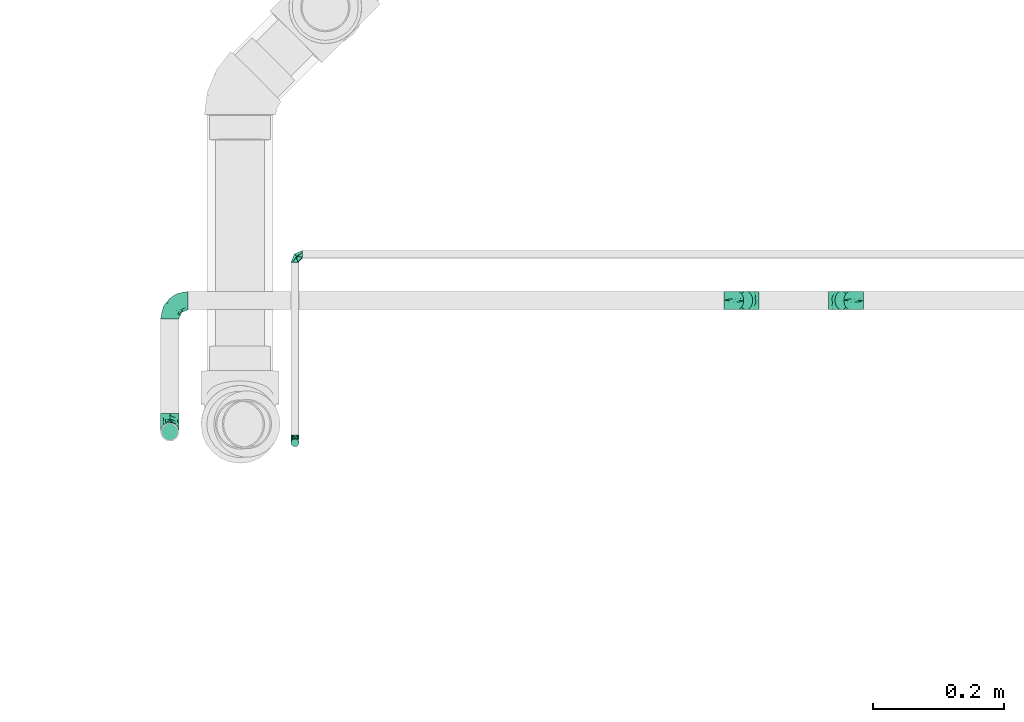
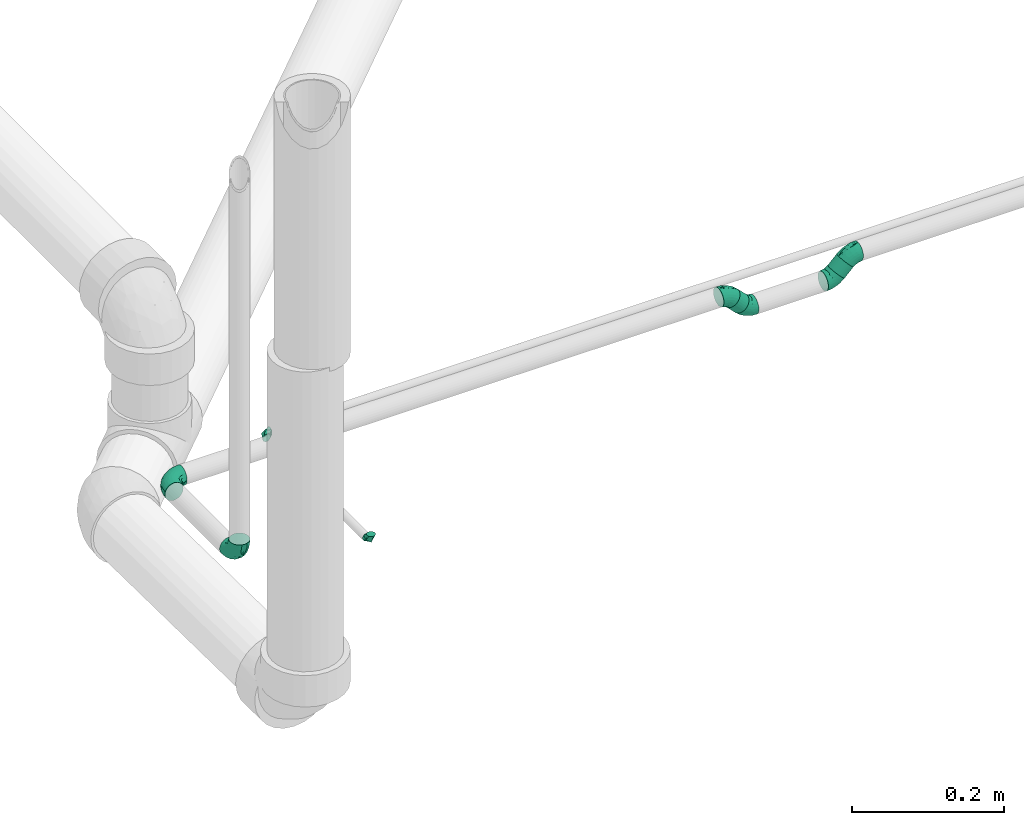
# One storey, part 82 of 156: 8 flow fittings, 2 flow segments.
"""IFC2X3 building model written with IfcOpenShell, lengths in millimetres."""

from ifc_helpers import new_model, entity, si_unit, converted_unit, derived_unit, direction, frame, origin_with_axes, origin_2d_with_axis, place, context, subcontext, project, spatial, hollow_circle, extrude, open_shell, surface_model, source, transform, mapped, type_object, element, save


model = new_model("IFC2X3")

# Units and contexts
model_context = context("Model", 3, precision=0.01, world=frame((0.0, 4.29681676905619e-09, 0.0)), true_north=direction((4.01073788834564e-13, 1.0)))
plan_context = context("Plan", 3, precision=0.01, world=frame((0.0, 4.29681676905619e-09, 0.0)), true_north=direction((4.01073788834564e-13, 1.0)))
body_context = subcontext(model_context, "Body", "Model", "MODEL_VIEW")
ifc_project = project(units=[converted_unit("PLANEANGLEUNIT", "DEGREE", entity("IfcPositiveLengthMeasure", 0.0174532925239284), si_unit("PLANEANGLEUNIT", "RADIAN"), dimensions=[0, 0, 0, 0, 0, 0, 0]), si_unit("AREAUNIT", "SQUARE_METRE"), si_unit("LENGTHUNIT", "METRE", prefix="MILLI"), si_unit("MASSUNIT", "GRAM", prefix="KILO"), si_unit("POWERUNIT", "WATT"), si_unit("PRESSUREUNIT", "PASCAL", prefix="KILO"), si_unit("FORCEUNIT", "NEWTON", prefix="KILO"), si_unit("ELECTRICVOLTAGEUNIT", "VOLT"), si_unit("ELECTRICCURRENTUNIT", "AMPERE"), si_unit("THERMODYNAMICTEMPERATUREUNIT", "DEGREE_CELSIUS"), si_unit("TIMEUNIT", "SECOND"), si_unit("VOLUMEUNIT", "CUBIC_METRE"), derived_unit("LINEARVELOCITYUNIT", [(si_unit("LENGTHUNIT", "METRE"), 1), (si_unit("TIMEUNIT", "SECOND"), -1)]), derived_unit("VOLUMETRICFLOWRATEUNIT", [(si_unit("VOLUMEUNIT", "CUBIC_METRE"), 1), (si_unit("TIMEUNIT", "SECOND"), -1)]), derived_unit("THERMALTRANSMITTANCEUNIT", [(si_unit("POWERUNIT", "WATT"), 1), (si_unit("THERMODYNAMICTEMPERATUREUNIT", "KELVIN"), -1), (si_unit("AREAUNIT", "SQUARE_METRE"), -1)]), derived_unit("SOUNDPRESSUREUNIT", [(si_unit("PRESSUREUNIT", "PASCAL"), 1)])], contexts=[model_context, plan_context])

# Site, building, storey
site_placement = place(None, frame((0.0, -4.29681676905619e-09, 0.0), z_axis=(0.0, 0.0, 1.0), x_axis=(1.0, 0.0, 0.0)))
site = spatial("IfcSite", under=ifc_project, at=site_placement, CompositionType="ELEMENT")
building_placement = place(site_placement, frame((0.0, 4.29681676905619e-09, 0.0), z_axis=(0.0, 0.0, 1.0), x_axis=(1.0, 0.0, 0.0)))
building = spatial("IfcBuilding", under=site, at=building_placement, Name="mc-building", CompositionType="ELEMENT")
storey_placement = place(building_placement, frame((0.0, 0.0, 205200.0), z_axis=(0.0, 0.0, 1.0), x_axis=(1.0, 0.0, 0.0)))
storey = spatial("IfcBuildingStorey", under=building, at=storey_placement, Name="Nivå D + 1,2 m", CompositionType="ELEMENT", Elevation=205200.0)

# Flow fittings
pipe_fitting_type = type_object("IfcPipeFittingType", Name="magi_pipe_elbow_short_001", PredefinedType="BEND")
shared_shape_1 = source(origin_with_axes(), body_context, "Body", "SurfaceModel", [
    surface_model("IfcShellBasedSurfaceModel", [(-12.0, 0.0, -6.0), (-12.0, -5.19615, -3.0), (-12.0, 1.55291, -5.79555), (-12.0, 5.79555, -1.55291), (-12.0, -5.79555, -1.55291), (-12.0, -6.0, 0.0), (-12.0, -1.55291, 5.79555), (-12.0, 0.0, 6.0), (-12.0, -3.0, 5.19615), (-12.0, 3.0, -5.19615), (-12.0, 5.19615, -3.0), (-12.0, 4.24264, -4.24264), (-12.0, -3.0, -5.19615), (-12.0, -4.24264, -4.24264), (-12.0, -1.55291, -5.79555), (-12.0, 6.0, 0.0), (-12.0, -4.24264, 4.24264), (-12.0, 5.79555, 1.55291), (-12.0, 5.19615, 3.0), (-12.0, 4.24264, 4.24264), (-12.0, 1.55291, 5.79555), (-12.0, 3.0, 5.19615), (-12.0, -5.79555, 1.55291), (-12.0, -5.19615, 3.0), (-1.55291, 12.0, -5.79555), (5.19615, 12.0, -3.0), (0.0, 12.0, -6.0), (-5.79555, 12.0, -1.55291), (-3.0, 12.0, -5.19615), (-4.24264, 12.0, -4.24264), (-5.19615, 12.0, -3.0), (-1.55291, 12.0, 5.79555), (1.55291, 12.0, -5.79555), (4.24264, 12.0, -4.24264), (3.0, 12.0, -5.19615), (6.0, 12.0, 0.0), (5.79555, 12.0, -1.55291), (4.24264, 12.0, 4.24264), (-5.19615, 12.0, 3.0), (-5.79555, 12.0, 1.55291), (-4.24264, 12.0, 4.24264), (-3.0, 12.0, 5.19615), (5.19615, 12.0, 3.0), (5.79555, 12.0, 1.55291), (3.0, 12.0, 5.19615), (0.0, 12.0, 6.0), (1.55291, 12.0, 5.79555), (-6.0, 12.0, 0.0), (-2.67965, 2.67964, 5.88263), (-6.5981, -3.76246, 0.0), (0.72792, -0.72792, 0.0), (3.76246, 6.5981, 0.0), (-7.75736, 7.75736, 0.0), (-2.67964, 2.67964, -5.88263)], [open_shell([[[0, 1, 2]], [[3, 2, 1]], [[4, 5, 1]], [[6, 7, 8]], [[9, 2, 3]], [[3, 10, 11]], [[9, 3, 11]], [[12, 13, 14]], [[1, 14, 13]], [[0, 14, 1]], [[1, 5, 3]], [[5, 15, 3]], [[16, 17, 5]], [[18, 17, 19]], [[20, 21, 19]], [[17, 20, 19]], [[20, 17, 8]], [[5, 22, 23]], [[5, 23, 16]], [[17, 16, 8]], [[20, 8, 7]], [[17, 15, 5]], [[24, 25, 26]], [[27, 24, 28]], [[29, 30, 27]], [[29, 27, 28]], [[31, 25, 24]], [[32, 33, 34]], [[33, 32, 25]], [[25, 35, 36]], [[25, 32, 26]], [[25, 37, 35]], [[38, 24, 27]], [[27, 39, 38]], [[24, 38, 31]], [[40, 41, 31]], [[40, 31, 38]], [[37, 25, 31]], [[35, 42, 43]], [[37, 42, 35]], [[44, 45, 46]], [[44, 37, 31]], [[45, 44, 31]], [[27, 47, 39]], [[6, 48, 7]], [[23, 22, 49]], [[16, 23, 49]], [[22, 5, 49]], [[50, 51, 48]], [[8, 49, 48]], [[20, 7, 48]], [[8, 48, 6]], [[42, 51, 43]], [[16, 49, 8]], [[18, 19, 38]], [[48, 19, 21]], [[17, 18, 52]], [[52, 15, 17]], [[52, 18, 38]], [[21, 20, 48]], [[49, 50, 48]], [[44, 46, 48]], [[51, 44, 48]], [[46, 45, 48]], [[35, 43, 51]], [[44, 51, 37]], [[37, 51, 42]], [[38, 39, 52]], [[47, 52, 39]], [[41, 40, 48]], [[40, 19, 48]], [[38, 19, 40]], [[31, 41, 48]], [[45, 31, 48]], [[9, 53, 2]], [[2, 53, 0]], [[52, 10, 3]], [[50, 49, 53]], [[11, 29, 53]], [[1, 49, 4]], [[11, 10, 29]], [[9, 11, 53]], [[49, 5, 4]], [[1, 13, 49]], [[14, 53, 12]], [[49, 13, 12]], [[12, 53, 49]], [[0, 53, 14]], [[3, 15, 52]], [[52, 47, 27]], [[52, 27, 30]], [[29, 10, 30]], [[32, 53, 26]], [[53, 28, 24]], [[36, 35, 51]], [[53, 29, 28]], [[26, 53, 24]], [[53, 34, 51]], [[51, 34, 33]], [[25, 36, 51]], [[51, 50, 53]], [[51, 33, 25]], [[34, 53, 32]], [[30, 10, 52]]])]),
])
flow_fitting_1_placement = place(storey_placement, frame((322732.1022, 462383.7286, 4285.29988999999), z_axis=(0.0, 0.0, 1.0), x_axis=(-1.0, 0.0, 0.0)))
element("IfcFlowFitting", 1, at=flow_fitting_1_placement, inside=storey, type_object=pipe_fitting_type, Name="magi_pipe_elbow_short_001", context=body_context, shape_type="MappedRepresentation", body=[
    mapped(shared_shape_1, transform((0.0, 0.0, 0.0), scale=1.0)),
])
shared_shape_2 = source(origin_with_axes(), body_context, "Body", "SurfaceModel", [
    surface_model("IfcShellBasedSurfaceModel", [(-28.0, 3.62347, -13.52296), (-28.0, 0.0, -14.0), (-28.0, 13.52296, -3.62347), (-28.0, 7.0, -12.12436), (-28.0, 9.89949, -9.89949), (-28.0, 12.12436, -7.0), (-28.0, -9.89949, 9.89949), (-28.0, -13.52296, -3.62347), (-28.0, -7.0, -12.12436), (-28.0, -9.89949, -9.89949), (-28.0, -3.62347, -13.52296), (-28.0, -12.12436, -7.0), (-28.0, -14.0, 0.0), (-28.0, -13.52296, 3.62347), (-28.0, 13.52296, 3.62347), (-28.0, 14.0, 0.0), (-28.0, 3.62347, 13.52296), (-28.0, 12.12436, 7.0), (-28.0, 9.89949, 9.89949), (-28.0, 7.0, 12.12436), (-28.0, 0.0, 14.0), (-28.0, -12.12436, 7.0), (-28.0, -3.62347, 13.52296), (-28.0, -7.0, 12.12436), (-13.52296, 28.0, -3.62347), (0.0, 28.0, -14.0), (-3.62347, 28.0, -13.52296), (-9.89949, 28.0, -9.89949), (-7.0, 28.0, -12.12436), (-12.12436, 28.0, -7.0), (13.52296, 28.0, -3.62347), (-9.89949, 28.0, 9.89949), (3.62347, 28.0, -13.52296), (9.89949, 28.0, -9.89949), (7.0, 28.0, -12.12436), (12.12436, 28.0, -7.0), (13.52296, 28.0, 3.62347), (14.0, 28.0, 0.0), (-13.52296, 28.0, 3.62347), (-12.12436, 28.0, 7.0), (-7.0, 28.0, 12.12436), (-3.62347, 28.0, 13.52296), (9.89949, 28.0, 9.89949), (0.0, 28.0, 14.0), (12.12436, 28.0, 7.0), (7.0, 28.0, 12.12436), (3.62347, 28.0, 13.52296), (-14.0, 28.0, 0.0), (-18.74729, -12.24672, 4.38175), (-20.4978, -10.87112, 7.8554), (-14.63098, -10.41778, 0.0), (-11.36869, -10.18884, 3.09687), (5.89274, 4.32805, 4.24468), (3.06694, 4.04075, 8.35629), (-0.17293, -0.734, 7.21134), (-12.21635, -8.85831, 7.04954), (-3.77138, -5.46958, 4.31404), (-21.31549, -12.20889, 0.0), (6.34939, 11.25924, 9.57712), (8.06481, 18.3168, 10.42711), (3.37486, 10.81192, 11.64293), (-18.31681, -8.06481, 10.42711), (-20.56266, -5.29223, 12.59496), (-21.38752, -1.85462, 13.76057), (-19.60454, 2.14601, 13.97614), (-10.81192, -3.37486, 11.64293), (-13.93831, -0.12564, 13.56955), (-21.5811, 5.49074, 13.225), (-21.95612, 11.65158, 9.17996), (-20.05772, 14.63261, 6.40071), (-24.5084, 13.14639, 5.80116), (-14.41344, 20.50581, 6.33709), (-4.86565, 13.76759, 13.97488), (-10.37, 10.37, 13.65983), (-8.33631, 6.11788, 13.92788), (-14.75744, 15.63504, 9.91683), (-24.22185, 8.47816, 11.40754), (-3.65439, 9.37683, 13.74657), (-6.95631, 2.56833, 13.07318), (-1.43023, 7.56381, 12.86583), (-23.31553, 14.32852, 3.52781), (-21.69779, 16.61046, 0.0), (-5.22595, 24.14907, 13.1135), (-1.91876, 20.94202, 13.96561), (5.29223, 20.56266, 12.59496), (-4.80832, -3.33944, 8.67628), (-2.5008, 2.5008, 11.44619), (1.85462, 21.38752, 13.76057), (10.87112, 20.4978, 7.8554), (8.85831, 12.21635, 7.04954), (12.24672, 18.74729, 4.38175), (-11.25924, -6.34939, 9.57712), (-15.37363, 21.10999, 3.25616), (-19.14983, 16.6358, 3.33834), (10.18884, 11.36869, 3.09687), (10.41778, 14.63098, 0.0), (12.20889, 21.31549, 0.0), (-18.10051, 18.10051, 0.0), (8.37307, 7.0, 0.0), (-11.50288, 18.59955, 10.71326), (-8.84699, 21.68272, 11.60426), (-11.55739, 22.32322, 9.13967), (-10.58943, 15.13428, 12.47628), (-6.05474, 18.97034, 13.33304), (-14.9522, 12.56273, 11.63436), (-7.0, -8.37307, 0.0), (-15.38425, 5.99686, 13.74946), (-13.73768, 3.4306, 13.99403), (-14.88363, 9.49937, 12.94918), (-8.15523, 14.5327, 13.41132), (0.12564, 13.93831, 13.56955), (-19.27864, 9.50344, 11.78944), (-1.06605, 0.88351, 9.56863), (-3.83005, -4.31684, 6.58349), (-3.15673, -4.5298, 0.0), (1.6378, -1.17307, 3.37596), (-16.61046, 21.69779, 0.0), (4.5298, 3.15673, 0.0), (0.68653, -0.68653, 0.0), (-22.16307, 1.77021, -13.95443), (-12.1112, 20.49304, -9.34219), (-20.84882, -12.5942, -4.60988), (-21.54235, 5.49691, -13.22664), (-19.10898, 16.60593, -3.53067), (-11.43732, -3.53319, -11.74569), (-12.15681, -0.17464, -13.31564), (-5.62502, -0.23427, -11.47155), (-20.32556, 9.17949, -11.70878), (-22.13531, 11.60457, -9.16028), (8.41708, 20.6911, -10.6019), (-16.88435, 12.82951, -10.55878), (-11.13704, -10.24959, -2.34743), (-4.84185, -6.54661, -3.36137), (-12.96604, 16.27159, -10.78023), (-9.97005, 17.11892, -12.15817), (-12.93887, 12.93887, -12.29249), (-1.2334, -2.64201, -5.92074), (1.22973, 2.47088, -8.8979), (5.16596, 4.11707, -5.50974), (-13.82252, 8.10203, -13.53774), (-19.77353, -10.77046, -7.78839), (-20.6911, -8.41708, -10.6019), (-5.71492, 20.3686, -13.27579), (12.5942, 20.84882, -4.60988), (-23.64458, -5.51923, -12.7416), (-12.09227, -8.27186, -7.82819), (-10.45313, -5.71095, -9.79365), (0.58937, 6.57638, -11.67536), (0.17464, 12.15681, -13.31564), (2.89353, 11.95196, -12.23037), (-23.72828, 14.45075, -2.39672), (-13.72718, 22.21732, -6.10198), (-14.65489, 22.72001, -3.11815), (10.77046, 19.77353, -7.78839), (-4.94234, 4.94234, -13.21976), (-17.01297, 16.64546, -6.86733), (-1.77021, 22.16307, -13.95443), (-8.78719, 21.97882, -11.58143), (1.76523, 20.62648, -13.74402), (5.51923, 23.64458, -12.7416), (-20.62648, -1.76523, -13.74402), (-17.72962, -4.83155, -12.45127), (-3.30956, 15.42318, -13.99698), (-7.57019, 8.16927, -13.99205), (-8.28388, 13.27199, -13.5833), (-6.87455, -6.54348, -6.32219), (9.88737, 10.40056, -2.49707), (6.89392, 5.1145, -2.73992), (0.30381, -2.5875, -3.00478), (-22.38273, 13.76108, -5.90633), (9.77824, 12.19087, -5.31295), (8.70689, 13.51955, -8.04189), (5.71095, 10.45313, -9.79365), (4.83155, 17.72962, -12.45127), (-4.06757, -2.72494, -8.72853), (6.23857, 7.82545, -7.6266), (-15.42318, 3.30956, -13.99698), (-16.05025, 23.05025, 0.0), (-12.19087, -9.77824, -5.31295), (3.79914, 1.24839, -3.50098), (-15.61294, 15.85577, -9.08381)], [open_shell([[[0, 1, 2]], [[3, 0, 4]], [[2, 5, 4]], [[0, 2, 4]], [[6, 1, 7]], [[8, 9, 10]], [[9, 1, 10]], [[11, 7, 9]], [[9, 7, 1]], [[12, 13, 7]], [[2, 1, 6]], [[14, 15, 16]], [[17, 14, 18]], [[16, 19, 18]], [[14, 16, 18]], [[20, 16, 15]], [[21, 6, 13]], [[6, 7, 13]], [[22, 20, 23]], [[6, 23, 20]], [[2, 6, 20]], [[15, 2, 20]], [[24, 25, 26]], [[27, 26, 28]], [[27, 29, 24]], [[27, 24, 26]], [[30, 25, 31]], [[32, 33, 34]], [[32, 25, 33]], [[33, 30, 35]], [[25, 30, 33]], [[30, 36, 37]], [[31, 25, 24]], [[24, 38, 31]], [[31, 38, 39]], [[31, 40, 41]], [[31, 42, 30]], [[41, 43, 31]], [[36, 42, 44]], [[30, 42, 36]], [[45, 43, 46]], [[43, 45, 42]], [[31, 43, 42]], [[24, 47, 38]], [[48, 49, 21]], [[48, 50, 51]], [[52, 53, 54]], [[55, 51, 56]], [[49, 6, 21]], [[57, 48, 13]], [[58, 59, 60]], [[61, 23, 6]], [[61, 62, 23]], [[20, 63, 64]], [[62, 65, 66]], [[59, 42, 45]], [[20, 22, 63]], [[67, 19, 16]], [[68, 69, 70]], [[39, 38, 71]], [[72, 73, 74]], [[69, 68, 75]], [[20, 64, 16]], [[19, 76, 18]], [[17, 18, 68]], [[77, 78, 79]], [[80, 81, 15]], [[41, 82, 83]], [[45, 84, 59]], [[85, 86, 65]], [[46, 43, 87]], [[88, 89, 90]], [[91, 65, 61]], [[43, 41, 83]], [[71, 92, 93]], [[90, 94, 95]], [[84, 45, 46]], [[88, 90, 44]], [[59, 84, 60]], [[36, 44, 90]], [[75, 71, 69]], [[23, 62, 22]], [[90, 96, 36]], [[97, 81, 93]], [[94, 98, 95]], [[92, 97, 93]], [[50, 48, 57]], [[70, 14, 17]], [[99, 100, 101]], [[31, 101, 100]], [[40, 31, 100]], [[102, 103, 100]], [[103, 72, 83]], [[82, 100, 103]], [[82, 41, 40]], [[99, 104, 102]], [[15, 14, 80]], [[67, 16, 64]], [[51, 50, 105]], [[48, 21, 13]], [[49, 55, 61]], [[44, 42, 88]], [[89, 52, 94]], [[106, 107, 74]], [[108, 67, 106]], [[31, 39, 101]], [[109, 102, 73]], [[103, 109, 72]], [[87, 83, 110]], [[76, 68, 18]], [[68, 111, 104]], [[65, 62, 61]], [[63, 62, 66]], [[91, 61, 55]], [[65, 86, 78]], [[87, 84, 46]], [[110, 79, 60]], [[110, 60, 84]], [[86, 112, 60]], [[55, 49, 48]], [[61, 6, 49]], [[42, 59, 88]], [[89, 88, 59]], [[106, 67, 64]], [[76, 67, 111]], [[53, 52, 89]], [[112, 86, 85]], [[56, 113, 55]], [[112, 54, 53]], [[58, 89, 59]], [[56, 51, 105]], [[114, 115, 56]], [[14, 70, 80]], [[69, 71, 93]], [[47, 116, 92]], [[92, 116, 97]], [[39, 71, 101]], [[75, 101, 71]], [[99, 102, 100]], [[108, 104, 111]], [[106, 74, 73]], [[110, 83, 72]], [[78, 74, 66]], [[72, 74, 77]], [[83, 87, 43]], [[84, 87, 110]], [[62, 63, 22]], [[64, 63, 66]], [[13, 12, 57]], [[96, 90, 95]], [[96, 37, 36]], [[115, 117, 52]], [[56, 105, 114]], [[55, 48, 51]], [[89, 94, 90]], [[52, 98, 94]], [[106, 64, 107]], [[108, 106, 73]], [[102, 108, 73]], [[67, 108, 111]], [[102, 104, 108]], [[68, 104, 75]], [[64, 66, 107]], [[66, 74, 107]], [[65, 78, 66]], [[79, 78, 86]], [[60, 79, 86]], [[77, 79, 110]], [[72, 77, 110]], [[78, 77, 74]], [[67, 76, 19]], [[68, 76, 111]], [[100, 82, 40]], [[83, 82, 103]], [[68, 70, 17]], [[80, 69, 93]], [[69, 80, 70]], [[80, 93, 81]], [[55, 85, 91]], [[85, 65, 91]], [[60, 53, 58]], [[53, 89, 58]], [[54, 112, 85]], [[60, 112, 53]], [[85, 113, 54]], [[113, 115, 54]], [[55, 113, 85]], [[115, 113, 56]], [[71, 38, 92]], [[115, 114, 118]], [[47, 92, 38]], [[101, 75, 99]], [[99, 75, 104]], [[72, 109, 73]], [[103, 102, 109]], [[54, 115, 52]], [[117, 115, 118]], [[117, 98, 52]], [[0, 119, 1]], [[29, 27, 120]], [[121, 57, 7]], [[3, 122, 0]], [[97, 123, 81]], [[124, 125, 126]], [[127, 4, 128]], [[33, 129, 34]], [[127, 128, 130]], [[131, 132, 105]], [[133, 134, 135]], [[127, 3, 4]], [[136, 137, 138]], [[139, 122, 127]], [[4, 5, 128]], [[11, 140, 121]], [[141, 140, 9]], [[26, 142, 28]], [[95, 143, 96]], [[144, 8, 10]], [[145, 141, 146]], [[30, 37, 96]], [[147, 148, 149]], [[140, 11, 9]], [[15, 81, 150]], [[130, 133, 135]], [[151, 152, 24]], [[153, 35, 143]], [[147, 154, 148]], [[24, 29, 151]], [[120, 155, 151]], [[33, 153, 129]], [[25, 156, 26]], [[26, 156, 142]], [[143, 35, 30]], [[27, 28, 157]], [[123, 152, 155]], [[158, 32, 159]], [[144, 160, 161]], [[122, 3, 127]], [[148, 162, 158]], [[157, 28, 142]], [[162, 163, 164]], [[159, 32, 34]], [[165, 136, 132]], [[35, 153, 33]], [[166, 98, 167]], [[160, 10, 1]], [[161, 160, 125]], [[95, 166, 143]], [[50, 131, 105]], [[121, 7, 11]], [[168, 114, 132]], [[150, 169, 2]], [[167, 98, 117]], [[32, 158, 25]], [[164, 142, 162]], [[133, 157, 134]], [[9, 8, 141]], [[165, 145, 146]], [[170, 171, 153]], [[129, 172, 173]], [[126, 137, 174]], [[175, 137, 172]], [[148, 158, 173]], [[156, 158, 162]], [[149, 172, 147]], [[148, 154, 163]], [[119, 160, 1]], [[176, 163, 125]], [[176, 125, 160]], [[125, 154, 126]], [[169, 128, 5]], [[127, 130, 135]], [[139, 127, 135]], [[119, 122, 176]], [[120, 151, 29]], [[152, 97, 177]], [[142, 164, 134]], [[120, 27, 157]], [[152, 47, 24]], [[81, 123, 150]], [[123, 155, 169]], [[152, 123, 97]], [[140, 178, 121]], [[121, 178, 131]], [[144, 141, 8]], [[146, 141, 161]], [[30, 96, 143]], [[170, 153, 143]], [[129, 153, 171]], [[159, 129, 173]], [[137, 147, 172]], [[126, 154, 147]], [[172, 171, 175]], [[174, 137, 136]], [[137, 126, 147]], [[126, 146, 124]], [[117, 118, 179]], [[179, 138, 167]], [[128, 169, 155]], [[5, 2, 169]], [[57, 121, 50]], [[57, 12, 7]], [[122, 119, 0]], [[160, 119, 176]], [[158, 156, 25]], [[142, 156, 162]], [[162, 148, 163]], [[139, 135, 164]], [[125, 163, 154]], [[139, 163, 176]], [[163, 139, 164]], [[122, 139, 176]], [[155, 180, 128]], [[180, 120, 133]], [[180, 133, 130]], [[157, 133, 120]], [[142, 134, 157]], [[164, 135, 134]], [[128, 180, 130]], [[120, 180, 155]], [[152, 151, 155]], [[47, 152, 177]], [[169, 150, 123]], [[15, 150, 2]], [[121, 131, 50]], [[178, 165, 132]], [[178, 132, 131]], [[168, 132, 136]], [[145, 165, 178]], [[174, 165, 146]], [[178, 140, 145]], [[141, 145, 140]], [[179, 136, 138]], [[170, 166, 167]], [[168, 179, 118]], [[170, 167, 138]], [[143, 166, 170]], [[95, 98, 166]], [[117, 179, 167]], [[136, 179, 168]], [[129, 159, 34]], [[158, 159, 173]], [[160, 144, 10]], [[141, 144, 161]], [[175, 170, 138]], [[129, 171, 172]], [[170, 175, 171]], [[137, 175, 138]], [[148, 173, 149]], [[172, 149, 173]], [[165, 174, 136]], [[126, 174, 146]], [[146, 161, 124]], [[125, 124, 161]], [[114, 168, 118]], [[114, 105, 132]]])]),
])
for number, where, z_axis, x_axis, name in (
    (2, (322541.76693, 462113.63355, 4318.0), (-1.0, 0.0, 0.0), (0.0, -1.0, 0.0), "magi_pipe_elbow_short_001"),
    (3, (322541.76693, 462313.63355, 4318.0), (0.0, 0.0, 1.0), (-1.0, 0.0, 0.0), "magi_pipe_elbow_short_001"),
):
    element("IfcFlowFitting", number, at=place(storey_placement, frame(where, z_axis=z_axis, x_axis=x_axis)), inside=storey, type_object=pipe_fitting_type, Name=name, context=body_context, shape_type="MappedRepresentation", body=[
        mapped(shared_shape_2, transform((0.0, 0.0, 0.0), scale=1.0)),
    ])
shared_shape_3 = source(origin_with_axes(), body_context, "Body", "SurfaceModel", [
    surface_model("IfcShellBasedSurfaceModel", [(-12.0, 0.0, -6.0), (-12.0, -5.19615, -3.0), (-12.0, 1.55291, -5.79555), (-12.0, 5.79555, -1.55291), (-12.0, -5.79555, -1.55291), (-12.0, -6.0, 0.0), (-12.0, -1.55291, 5.79555), (-12.0, 0.0, 6.0), (-12.0, -3.0, 5.19615), (-12.0, 3.0, -5.19615), (-12.0, 5.19615, -3.0), (-12.0, 4.24264, -4.24264), (-12.0, -3.0, -5.19615), (-12.0, -4.24264, -4.24264), (-12.0, -1.55291, -5.79555), (-12.0, 5.19615, 3.0), (-12.0, 5.79555, 1.55291), (-12.0, 4.24264, 4.24264), (-12.0, 1.55291, 5.79555), (-12.0, 3.0, 5.19615), (-12.0, -5.19615, 3.0), (-12.0, -4.24264, 4.24264), (-4.24264, 12.0, -4.24264), (-5.19615, 12.0, -3.0), (-5.79555, 12.0, -1.55291), (1.55291, 12.0, -5.79555), (4.24264, 12.0, -4.24264), (3.0, 12.0, -5.19615), (-4.24264, 12.0, 4.24264), (-3.0, 12.0, 5.19615), (-1.55291, 12.0, 5.79555), (-2.67965, 2.67964, 5.88263), (-12.0, -5.79555, 1.55291), (-6.5981, -3.76246, 0.0), (0.72792, -0.72792, 0.0), (3.76246, 6.5981, 0.0), (5.19615, 12.0, 3.0), (5.79555, 12.0, 1.55291), (-5.19615, 12.0, 3.0), (-7.75736, 7.75736, 0.0), (-12.0, 6.0, 0.0), (3.0, 12.0, 5.19615), (1.55291, 12.0, 5.79555), (0.0, 12.0, 6.0), (6.0, 12.0, 0.0), (4.24264, 12.0, 4.24264), (-5.79555, 12.0, 1.55291), (-6.0, 12.0, 0.0), (-2.67964, 2.67964, -5.88263), (0.0, 12.0, -6.0), (-3.0, 12.0, -5.19615), (-1.55291, 12.0, -5.79555), (5.79555, 12.0, -1.55291), (5.19615, 12.0, -3.0)], [open_shell([[[0, 1, 2]], [[3, 2, 1]], [[4, 5, 1]], [[6, 7, 8]], [[9, 2, 3]], [[3, 10, 11]], [[9, 3, 11]], [[12, 13, 14]], [[1, 14, 13]], [[0, 14, 1]], [[15, 16, 17]], [[18, 19, 17]], [[16, 18, 17]], [[18, 16, 8]], [[5, 20, 21]], [[18, 8, 7]], [[22, 23, 24]], [[25, 26, 27]], [[28, 29, 30]], [[6, 31, 7]], [[20, 32, 33]], [[21, 20, 33]], [[32, 5, 33]], [[34, 35, 31]], [[8, 33, 31]], [[18, 7, 31]], [[8, 31, 6]], [[36, 35, 37]], [[21, 33, 8]], [[15, 17, 38]], [[31, 17, 19]], [[16, 15, 39]], [[39, 40, 16]], [[39, 15, 38]], [[19, 18, 31]], [[33, 34, 31]], [[41, 42, 31]], [[35, 41, 31]], [[42, 43, 31]], [[44, 37, 35]], [[41, 35, 45]], [[45, 35, 36]], [[38, 46, 39]], [[47, 39, 46]], [[29, 28, 31]], [[28, 17, 31]], [[38, 17, 28]], [[30, 29, 31]], [[43, 30, 31]], [[9, 48, 2]], [[2, 48, 0]], [[39, 10, 3]], [[34, 33, 48]], [[11, 22, 48]], [[1, 33, 4]], [[11, 10, 22]], [[9, 11, 48]], [[33, 5, 4]], [[1, 13, 33]], [[14, 48, 12]], [[33, 13, 12]], [[12, 48, 33]], [[0, 48, 14]], [[3, 40, 39]], [[39, 47, 24]], [[39, 24, 23]], [[22, 10, 23]], [[25, 48, 49]], [[48, 50, 51]], [[52, 44, 35]], [[48, 22, 50]], [[49, 48, 51]], [[48, 27, 35]], [[35, 27, 26]], [[53, 52, 35]], [[35, 34, 48]], [[35, 26, 53]], [[27, 48, 25]], [[23, 10, 39]], [[28, 46, 38]], [[28, 30, 46]], [[5, 21, 1]], [[8, 3, 1]], [[3, 8, 16]], [[32, 20, 5]], [[8, 1, 21]], [[40, 3, 16]], [[51, 26, 49]], [[22, 51, 50]], [[51, 22, 47]], [[45, 52, 51]], [[25, 49, 26]], [[26, 52, 53]], [[51, 52, 26]], [[52, 37, 44]], [[24, 47, 22]], [[51, 46, 30]], [[30, 45, 51]], [[37, 45, 36]], [[52, 45, 37]], [[45, 42, 41]], [[42, 45, 43]], [[30, 43, 45]], [[46, 51, 47]]])]),
])
flow_fitting_2_placement = place(storey_placement, frame((322732.1022, 462097.03657, 4285.29999999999), z_axis=(-1.0, 0.0, 0.0), x_axis=(0.0, -1.0, 0.0)))
element("IfcFlowFitting", 4, at=flow_fitting_2_placement, inside=storey, type_object=pipe_fitting_type, Name="magi_pipe_elbow_short_001", context=body_context, shape_type="MappedRepresentation", body=[
    mapped(shared_shape_3, transform((0.0, 0.0, 0.0), scale=1.0)),
])
shared_shape_4 = source(origin_with_axes(), body_context, "Body", "SurfaceModel", [
    surface_model("IfcShellBasedSurfaceModel", [(-11.59798, 3.62347, -13.52296), (-11.59798, 0.0, -14.0), (-11.59798, 13.52296, -3.62347), (-11.59798, 7.0, -12.12436), (-11.59798, 9.89949, -9.89949), (-11.59798, 12.12436, -7.0), (-11.59798, -9.89949, 9.89949), (-11.59798, -13.52296, -3.62347), (-11.59798, -7.0, -12.12436), (-11.59798, -9.89949, -9.89949), (-11.59798, -3.62347, -13.52296), (-11.59798, -12.12436, -7.0), (-11.59798, -14.0, 0.0), (-11.59798, -13.52296, 3.62347), (-11.59798, 13.52296, 3.62347), (-11.59798, 14.0, 0.0), (-11.59798, 3.62347, 13.52296), (-11.59798, 12.12436, 7.0), (-11.59798, 9.89949, 9.89949), (-11.59798, 7.0, 12.12436), (-11.59798, 0.0, 14.0), (-11.59798, -12.12436, 7.0), (-11.59798, -3.62347, 13.52296), (-11.59798, -7.0, 12.12436), (5.63883, 10.76319, -13.52296), (16.77422, -0.3722, -7.0), (8.20101, 8.20101, -14.0), (1.20101, 15.20101, -9.89949), (3.25126, 13.15076, -12.12436), (17.76319, -1.36117, 3.62347), (-0.3722, 16.77422, -7.0), (10.76319, 5.63883, -13.52296), (15.20101, 1.20101, -9.89949), (13.15076, 3.25126, -12.12436), (18.10051, -1.69848, 0.0), (17.76319, -1.36117, -3.62347), (-1.69848, 18.10051, 0.0), (-1.36117, 17.76319, -3.62347), (5.63883, 10.76319, 13.52296), (-1.36117, 17.76319, 3.62347), (1.20101, 15.20101, 9.89949), (-0.3722, 16.77422, 7.0), (3.25126, 13.15076, 12.12436), (15.20101, 1.20101, 9.89949), (16.77422, -0.3722, 7.0), (13.15076, 3.25126, 12.12436), (8.20101, 8.20101, 14.0), (10.76319, 5.63883, 13.52296), (-5.54733, -5.13368, 12.79528), (-3.09728, -7.91248, 10.80295), (1.43749, -3.4704, 12.61888), (-4.52077, -10.70735, 8.19754), (10.76791, -4.37457, 8.19754), (-4.17837, -1.34796, 13.81453), (-5.37924, 5.82578, 13.08803), (-1.33159, 3.21474, 13.9508), (-7.01464, 1.94, 13.91504), (0.41555, 8.4165, 13.06701), (2.53088, 6.62697, 13.79637), (3.56571, -8.6084, 7.80178), (7.55262, 0.29249, 12.79528), (-5.76737, 13.92367, 5.7518), (-6.17396, 11.74106, 8.83494), (-3.97673, 9.60067, 11.42968), (1.20522, -11.76941, 2.47487), (6.40016, -9.70404, 2.47487), (4.13988, -9.99455, 4.87178), (-3.56163, -12.40147, 0.0), (-3.94515, -13.0586, 2.55052), (13.4923, -5.3555, 2.69269), (10.33958, -6.78955, 4.86184), (-5.60762, 15.0014, 2.94157), (-2.51025, -12.11212, 4.86184), (3.9077, 2.00141, 13.81453), (7.78508, -3.40486, 10.80295), (4.47472, -10.80294, 0.0), (11.28761, -6.25071, 0.0), (-6.24041, 15.06569, 0.0), (2.34987, -5.67309, 11.16422), (-4.17837, -1.34796, -13.81452), (7.47001, -9.17445, -2.47487), (2.3362, -11.38739, -2.47487), (4.13988, -9.99455, -4.87178), (3.9077, 2.00141, -13.81452), (-6.24521, 5.65753, -13.06701), (-6.47558, 2.89638, -13.79637), (-3.93654, 12.66784, -8.83494), (7.78508, -3.40486, -10.80295), (-5.76737, 13.92367, -5.7518), (10.33958, -6.78955, -4.86184), (-6.6424, 14.57277, -2.94157), (-0.31575, 7.92315, -13.08803), (-5.75358, -13.32741, -2.69269), (-2.51025, -12.11212, -4.86184), (3.56571, -8.6084, -7.80178), (10.76791, -4.37457, -8.19754), (-4.52077, -10.70735, -8.19754), (-3.09728, -7.91248, -10.80295), (2.34987, -5.67309, -11.16422), (-5.54733, -5.13368, -12.79528), (1.43749, -3.4704, -12.61888), (7.55262, 0.29249, -12.79528), (-1.33159, 3.21474, -13.9508), (-3.97673, 9.60067, -11.42968), (12.02347, -6.44418, -2.55052), (3.58832, 6.33189, -13.91504)], [open_shell([[[0, 1, 2]], [[3, 0, 4]], [[2, 5, 4]], [[0, 2, 4]], [[6, 1, 7]], [[8, 9, 10]], [[9, 1, 10]], [[11, 7, 9]], [[9, 7, 1]], [[12, 13, 7]], [[2, 1, 6]], [[14, 15, 16]], [[17, 14, 18]], [[16, 19, 18]], [[14, 16, 18]], [[20, 16, 15]], [[21, 6, 13]], [[6, 7, 13]], [[22, 20, 23]], [[6, 23, 20]], [[2, 6, 20]], [[15, 2, 20]], [[24, 25, 26]], [[27, 24, 28]], [[25, 24, 29]], [[30, 24, 27]], [[24, 30, 29]], [[31, 32, 33]], [[32, 31, 25]], [[25, 34, 35]], [[25, 31, 26]], [[25, 29, 34]], [[36, 30, 37]], [[38, 36, 39]], [[40, 39, 41]], [[40, 42, 38]], [[40, 38, 39]], [[38, 43, 30]], [[29, 43, 44]], [[30, 43, 29]], [[45, 46, 47]], [[45, 43, 38]], [[46, 45, 38]], [[30, 36, 38]], [[48, 49, 50]], [[6, 51, 49]], [[23, 6, 49]], [[44, 43, 52]], [[20, 22, 53]], [[22, 23, 48]], [[19, 16, 54]], [[55, 56, 53]], [[20, 56, 16]], [[38, 57, 58]], [[49, 51, 59]], [[45, 47, 60]], [[61, 17, 62]], [[63, 18, 19]], [[64, 65, 66]], [[67, 64, 68]], [[69, 29, 70]], [[61, 71, 14]], [[21, 13, 72]], [[15, 14, 71]], [[14, 17, 61]], [[6, 21, 51]], [[54, 63, 19]], [[72, 66, 59]], [[12, 67, 68]], [[42, 40, 63]], [[46, 58, 73]], [[43, 45, 74]], [[41, 39, 61]], [[73, 47, 46]], [[64, 67, 75]], [[43, 74, 52]], [[55, 58, 57]], [[74, 45, 60]], [[21, 72, 51]], [[76, 69, 65]], [[29, 69, 34]], [[56, 54, 16]], [[71, 61, 39]], [[77, 71, 36]], [[52, 59, 70]], [[49, 78, 50]], [[50, 73, 53]], [[38, 42, 57]], [[50, 60, 73]], [[61, 62, 41]], [[55, 53, 73]], [[40, 41, 62]], [[63, 54, 57]], [[48, 53, 22]], [[17, 18, 62]], [[29, 44, 70]], [[59, 51, 72]], [[78, 59, 74]], [[59, 52, 74]], [[70, 44, 52]], [[18, 63, 62]], [[40, 62, 63]], [[63, 57, 42]], [[55, 57, 54]], [[49, 48, 23]], [[53, 48, 50]], [[73, 60, 47]], [[74, 60, 50]], [[73, 58, 55]], [[46, 38, 58]], [[53, 56, 20]], [[54, 56, 55]], [[64, 66, 72]], [[70, 59, 66]], [[64, 72, 68]], [[65, 64, 75]], [[76, 65, 75]], [[70, 66, 65]], [[72, 13, 68]], [[12, 68, 13]], [[59, 78, 49]], [[74, 50, 78]], [[36, 71, 39]], [[71, 77, 15]], [[65, 69, 70]], [[34, 69, 76]], [[10, 1, 79]], [[80, 81, 82]], [[26, 31, 83]], [[84, 85, 0]], [[5, 86, 4]], [[33, 32, 87]], [[88, 86, 5]], [[25, 35, 89]], [[2, 90, 88]], [[28, 24, 91]], [[92, 7, 93]], [[3, 84, 0]], [[67, 92, 81]], [[94, 95, 89]], [[7, 92, 12]], [[96, 9, 97]], [[9, 8, 97]], [[98, 94, 97]], [[7, 11, 93]], [[9, 96, 11]], [[99, 8, 10]], [[96, 94, 93]], [[100, 79, 83]], [[101, 83, 31]], [[15, 77, 90]], [[80, 76, 75]], [[36, 37, 90]], [[102, 83, 79]], [[27, 28, 103]], [[88, 5, 2]], [[30, 86, 88]], [[99, 97, 8]], [[91, 103, 28]], [[85, 79, 1]], [[103, 91, 84]], [[4, 103, 3]], [[76, 80, 104]], [[26, 105, 24]], [[101, 31, 33]], [[89, 82, 94]], [[32, 25, 95]], [[87, 100, 101]], [[87, 95, 94]], [[100, 99, 79]], [[34, 76, 104]], [[30, 27, 86]], [[105, 91, 24]], [[95, 87, 32]], [[87, 98, 100]], [[105, 83, 102]], [[102, 85, 84]], [[37, 88, 90]], [[25, 89, 95]], [[37, 30, 88]], [[94, 96, 97]], [[93, 11, 96]], [[27, 103, 86]], [[4, 86, 103]], [[103, 84, 3]], [[102, 84, 91]], [[79, 99, 10]], [[97, 99, 100]], [[87, 101, 33]], [[83, 101, 100]], [[79, 85, 102]], [[1, 0, 85]], [[83, 105, 26]], [[91, 105, 102]], [[80, 82, 89]], [[93, 94, 82]], [[80, 89, 104]], [[81, 80, 75]], [[67, 81, 75]], [[93, 82, 81]], [[89, 35, 104]], [[34, 104, 35]], [[94, 98, 87]], [[97, 100, 98]], [[15, 90, 2]], [[90, 77, 36]], [[81, 92, 93]], [[12, 92, 67]]])]),
])
for number, where, z_axis, x_axis, name in (
    (5, (323396.92785, 462313.63355, 4318.0), (0.0, 1.0, 0.0), (1.0, 0.0, 0.0), "magi_pipe_elbow_short_001"),
    (6, (323426.92785, 462313.63355, 4288.0), (0.0, -1.0, 0.0), (0.707106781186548, 0.0, -0.707106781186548), "magi_pipe_elbow_short_001"),
    (7, (323585.61937, 462313.63355, 4318.0), (0.0, -1.0, 0.0), (-1.0, 0.0, 0.0), "magi_pipe_elbow_short_001"),
    (8, (323555.61937, 462313.63355, 4288.0), (0.0, -1.0, 0.0), (1.0, 0.0, 0.0), "magi_pipe_elbow_short_001"),
):
    element("IfcFlowFitting", number, at=place(storey_placement, frame(where, z_axis=z_axis, x_axis=x_axis)), inside=storey, type_object=pipe_fitting_type, Name=name, context=body_context, shape_type="MappedRepresentation", body=[
        mapped(shared_shape_4, transform((0.0, 0.0, 0.0), scale=1.0)),
    ])

# Flow segments
pipe_segment_type = type_object("IfcPipeSegmentType", Name="Kobberrør", PredefinedType="RIGIDSEGMENT")
shared_shape_5 = source(origin_with_axes(), body_context, "Body", "SweptSolid", [
    extrude(hollow_circle(Radius=14.0, WallThickness=2.0, at=origin_2d_with_axis()), frame((0.0, 0.0, 0.0), z_axis=(1.0, 0.0, 0.0), x_axis=(0.0, 1.0, 0.0)), (0.0, 0.0, 1.0), 19.2),
])
for number, where, z_axis, x_axis in (
    (9, (323405.12886, 462313.63355, 4309.79899000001), (0.707106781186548, 0.0, 0.707106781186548), (0.707106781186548, 0.0, -0.707106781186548)),
    (10, (323577.41836, 462313.63355, 4309.79899000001), (-0.707106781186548, 0.0, 0.707106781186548), (-0.707106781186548, 0.0, -0.707106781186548)),
):
    element("IfcFlowSegment", number, at=place(storey_placement, frame(where, z_axis=z_axis, x_axis=x_axis)), inside=storey, type_object=pipe_segment_type, Name="Kobberrør", context=body_context, shape_type="MappedRepresentation", body=[
        mapped(shared_shape_5, transform((0.0, 0.0, 0.0), scale=1.0)),
    ])

save(model, "model.ifc")
